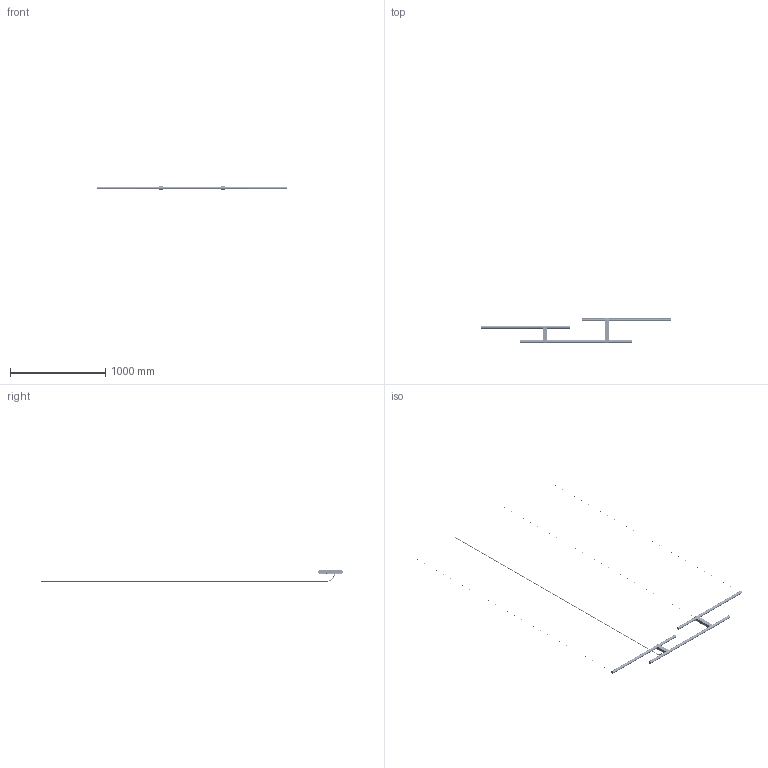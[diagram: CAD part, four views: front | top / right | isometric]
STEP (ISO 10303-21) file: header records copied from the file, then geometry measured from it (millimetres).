
FILE_DESCRIPTION (( 'STEP AP203' ), '1' );
FILE_NAME ('SPPARA03XXXXXXX-PER 3D.STEP', '2026-07-07T17:27:33', ( '' ), ( '' ), 'SwSTEP 2.0', 'SolidWorks 2026', '' );
FILE_SCHEMA (( 'CONFIG_CONTROL_DESIGN' ));
Length unit declared in the file: millimetre
Products named in the file (25): ACTUXX30XXBI2XX; WSCA01193000B2830B L=3000mm; WSVBPAR091225XX-00; SPPARA03XXXXXXX-PER 3D; WSCP2E0003-1400-06; WSCP2E0047-1400-05; ACTUCC30XXLA1XX; WSCP2E0017-1400-02; WSCP2E0018-1400-03; WSCM1I0008-0242-00; WSCP2E0014-1400-06; WSVBPAR116235XX-00; WSCM1I0006-0242-00; ACCAVOEL4X001XX; WSCM1I0007-0242-00; WSCP2E0012-1400-04; WSCP2E0004-1400-06; WSCP2E0044-1400-03; ACDISTSMFORXXXX; ACDISTBIXORXXXX; WSCP2E0015-1400-07; WSCP2E0048-1400-03
Assembly tree (29 placements, depth 3):
  SPPARA03XXXXXXX-PER 3D
    ACTUXX30XXBI2XX
      WSVBPAR116235XX-00
      WSCP2E0004-1400-06  x2
      WSCP2E0047-1400-05
      WSCP2E0012-1400-04
      WSCP2E0048-1400-03
    ACDISTSMFORXXXX
      WSCP2E0015-1400-07
      WSCP2E0017-1400-02
    ACDISTBIXORXXXX
      WSCP2E0014-1400-06
      WSCP2E0018-1400-03
    ACTUCC30XXLA1XX
      WSVBPAR091225XX-00
      WSCP2E0003-1400-06
      WSCP2E0047-1400-05
      WSCP2E0044-1400-03
      WSCA01193000B2830B L=3000mm
      WSCP2E0048-1400-03
    ACTUCC30XXLA1XX
      WSVBPAR091225XX-00
      WSCP2E0003-1400-06
      WSCP2E0047-1400-05
      WSCP2E0044-1400-03
      WSCA01193000B2830B L=3000mm
      WSCA01193000B2830B L=3000mm
      WSCP2E0048-1400-03
    ACCAVOEL4X001XX
  WSCM1I0008-0242-00
  WSCM1I0006-0242-00
  WSCM1I0007-0242-00
Bounding box: 1992.2 x 3184.75 x 119.5 mm (x, y, z)
Volume: 1128080 mm3; surface area: 808096.6 mm2
Topology: 24 solids, 24 shells, 11320 faces, 26222 edges, 14383 vertices
Faces by surface type: cylinder 4464, torus 2978, bspline 1686, plane 1667, sphere 442, cone 83
Entity records: 265694 total; most frequent: CARTESIAN_POINT 83875, DIRECTION 40482, ORIENTED_EDGE 36766, EDGE_CURVE 18383, AXIS2_PLACEMENT_3D 17199, VERTEX_POINT 10368, CIRCLE 10084, EDGE_LOOP 8311
